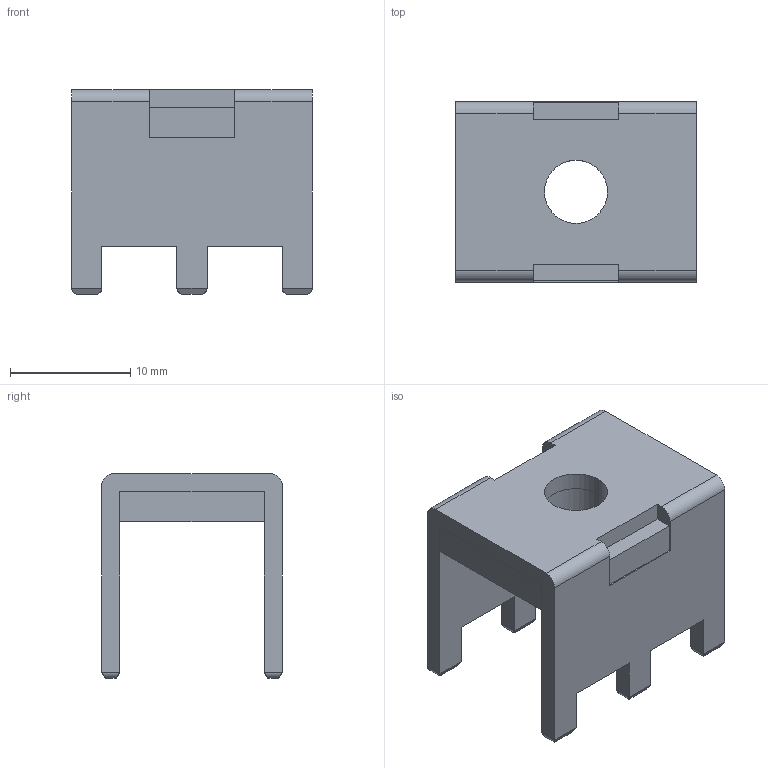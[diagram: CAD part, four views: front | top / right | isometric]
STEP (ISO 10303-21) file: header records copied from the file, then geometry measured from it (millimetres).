
FILE_DESCRIPTION(('CATIA V5 STEP Exchange'),'2;1');
FILE_NAME('F:\小黄\PCB焊接端子\HC-RG66-1520-D724-07（PCB焊接端子 插板 铆垫片 M6 6焊脚 15x20x17mm）.stp','2025-08-26T01:53:12+00:00',('none'),('none'),'CATIA Version 5 Release 20 GA (IN-10)','CATIA V5 STEP AP203','none');
FILE_SCHEMA(('CONFIG_CONTROL_DESIGN'));
Length unit declared in the file: millimetre
Products named in the file (1): Part1
Bounding box: 20 x 15 x 17 mm (x, y, z)
Volume: 1699.5 mm3; surface area: 2487.5 mm2
Topology: 2 solids, 2 shells, 80 faces, 212 edges, 132 vertices
Faces by surface type: plane 60, cylinder 20
Entity records: 2395 total; most frequent: CARTESIAN_POINT 520, ORIENTED_EDGE 424, DIRECTION 298, EDGE_CURVE 212, VECTOR 172, LINE 172, VERTEX_POINT 132, EDGE_LOOP 84
